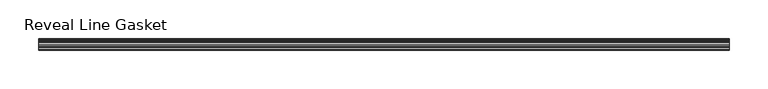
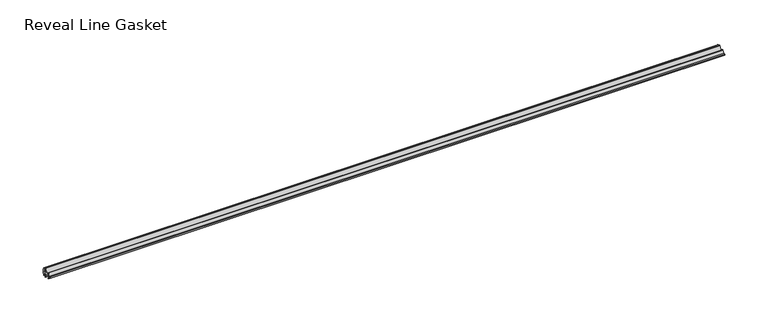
"""IFC4 building model written with IfcOpenShell, lengths in millimetres: proxy geometry, Accessories-Teknion-FHGR-AI_Healthcare-Reveal_Line_Gasket(Horizontal)-R2022 : Reveal Line Gasket."""

from ifc_helpers import new_model, si_unit, point, frame, frame_2d, origin, place, context, project, spatial, polyline, circle_curve, trimmed, segment, composite_curve, outline, extrude, source, transform, mapped, element, save


def reveal_line_gasket_72c6dcff(model_context):
    return source(origin(), model_context, "Body", "SweptSolid", [
        extrude(outline(composite_curve([segment(polyline([(7.6326998, 1603.2), (7.6326998, 1597.2), (7.4091917, 1596.2445073), (6.8813059, 1595.3115316)]), True, "CONTINUOUS"), segment(trimmed(circle_curve(frame_2d((6.5243141, 1595.5135207)), 0.4101739), [point((6.8813059, 1595.3115316))], [point((6.1246704, 1595.6058653))], False, "CARTESIAN"), True, "CONTINUOUS"), segment(polyline([(6.1246704, 1595.6058653), (6.3626997, 1597.3020914), (6.3626997, 1599.3345473)]), True, "CONTINUOUS"), segment(trimmed(circle_curve(frame_2d((5.6959605, 1598.9180742)), 0.786124), [point((6.3626997, 1599.3345473))], [point((5.0926996, 1599.422125))], True, "CARTESIAN"), True, "CONTINUOUS"), segment(polyline([(5.0926996, 1599.422125), (0.7492996, 1599.422125), (3.7293824, 1594.2604705)]), True, "CONTINUOUS"), segment(trimmed(circle_curve(frame_2d((3.3132479, 1594.1950239)), 0.4212495), [point((3.7293824, 1594.2604705))], [point((3.0485022, 1593.8673642))], False, "CARTESIAN"), True, "CONTINUOUS"), segment(polyline([(3.0485022, 1593.8673642), (-0.5742594, 1599.422125), (-4.8262978, 1599.422125), (-3.1660374, 1596.5464703)]), True, "CONTINUOUS"), segment(trimmed(circle_curve(frame_2d((-3.5978728, 1596.4881145)), 0.4357605), [point((-3.1660374, 1596.5464703))], [point((-3.864328, 1596.1433119))], False, "CARTESIAN"), True, "CONTINUOUS"), segment(polyline([(-3.864328, 1596.1433119), (-6.1944059, 1599.422125), (-7.6326998, 1599.422125), (-7.6326998, 1600.977875), (-6.1944059, 1600.977875), (-3.864328, 1604.2566881)]), True, "CONTINUOUS"), segment(trimmed(circle_curve(frame_2d((-3.5978728, 1603.9118855)), 0.4357605), [point((-3.864328, 1604.2566881))], [point((-3.1660374, 1603.8535297))], False, "CARTESIAN"), True, "CONTINUOUS"), segment(polyline([(-3.1660374, 1603.8535297), (-4.8262978, 1600.977875), (-0.5742594, 1600.977875), (3.0485022, 1606.5326358)]), True, "CONTINUOUS"), segment(trimmed(circle_curve(frame_2d((3.3132479, 1606.2049761)), 0.4212495), [point((3.0485022, 1606.5326358))], [point((3.7293824, 1606.1395295))], False, "CARTESIAN"), True, "CONTINUOUS"), segment(polyline([(3.7293824, 1606.1395295), (0.7492996, 1600.977875), (5.0926996, 1600.977875)]), True, "CONTINUOUS"), segment(trimmed(circle_curve(frame_2d((5.6959605, 1601.4819258)), 0.786124), [point((5.0926996, 1600.977875))], [point((6.3626997, 1601.0654527))], True, "CARTESIAN"), True, "CONTINUOUS"), segment(polyline([(6.3626997, 1601.0654527), (6.3626997, 1603.0979086), (6.1246704, 1604.7941347)]), True, "CONTINUOUS"), segment(trimmed(circle_curve(frame_2d((6.5243141, 1604.8864793)), 0.4101739), [point((6.1246704, 1604.7941347))], [point((6.8813059, 1605.0884684))], False, "CARTESIAN"), True, "CONTINUOUS"), segment(polyline([(6.8813059, 1605.0884684), (7.4091917, 1604.1554927), (7.6326998, 1603.2)]), True, "CONTINUOUS")], self_intersect=False)), frame((-447.7193698, 0.0, 0.0), z_axis=(1.0, 0.0, 0.0), x_axis=(0.0, 1.0, 0.0)), (0.0, 0.0, 1.0), 895.4387397),
    ])


if __name__ == "__main__":
    model = new_model("IFC4")
    model_context = context("Model", 3, world=origin())
    ifc_project = project(units=[si_unit("LENGTHUNIT", "METRE", prefix="MILLI")], contexts=[model_context])
    site = spatial("IfcSite", under=ifc_project)
    building = spatial("IfcBuilding", under=site)
    placement = place(None, origin())
    reveal_line_gasket_shape = reveal_line_gasket_72c6dcff(model_context)
    element("IfcBuildingElementProxy", 1, Name="Accessories-Teknion-FHGR-AI_Healthcare-Reveal_Line_Gasket(Horizontal)-R2022 : Reveal Line Gasket", ObjectType="Accessories-Teknion-FHGR-AI_Healthcare-Reveal_Line_Gasket(Horizontal)-R2022 : Reveal Line Gasket", at=placement, inside=building, context=model_context, shape_type="MappedRepresentation", body=[
        mapped(reveal_line_gasket_shape, transform((0.0, 0.0, 0.0), x_axis=(1.0, 0.0, 0.0), y_axis=(0.0, 1.0, 0.0), z_axis=(0.0, 0.0, 1.0))),
    ])
    save(model, "model.ifc")
